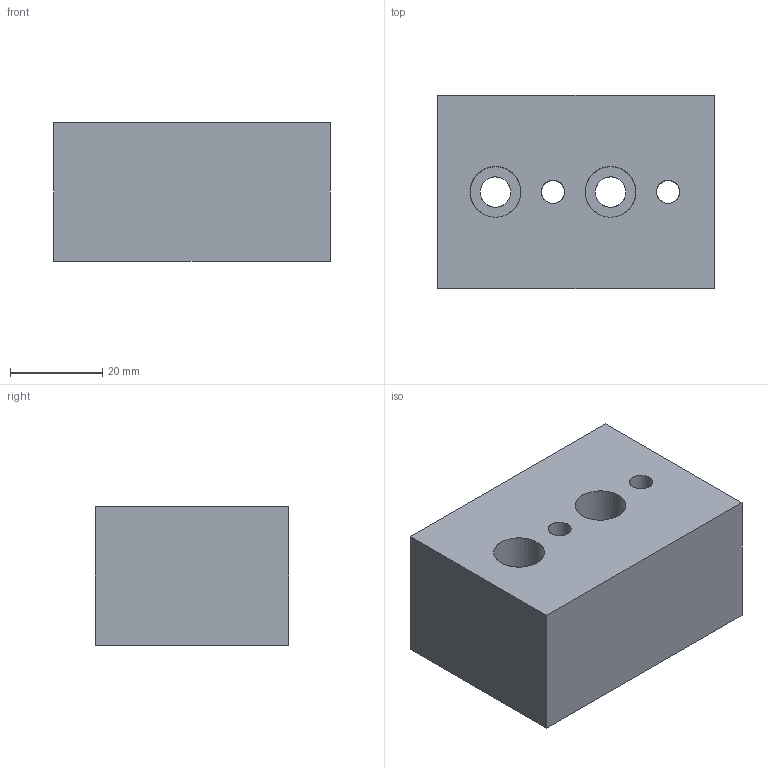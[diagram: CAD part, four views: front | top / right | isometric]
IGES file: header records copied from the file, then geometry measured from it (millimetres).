
Start section: C
Global section: file name: 5_Block for rails.igs; native system: By Siemens PLM Incorporated; preprocessor: XPlus GENERIC/IGES 22.0.50; author: Author; organization: Title; date: 20200703.180910; units: millimetre
Bounding box: 60 x 42 x 30 mm (x, y, z)
Surface area: 13827.9 mm2 (no closed solid volume)
Topology: 0 solids, 0 shells, 14 faces, 84 edges, 84 vertices
Faces by surface type: bspline 14
